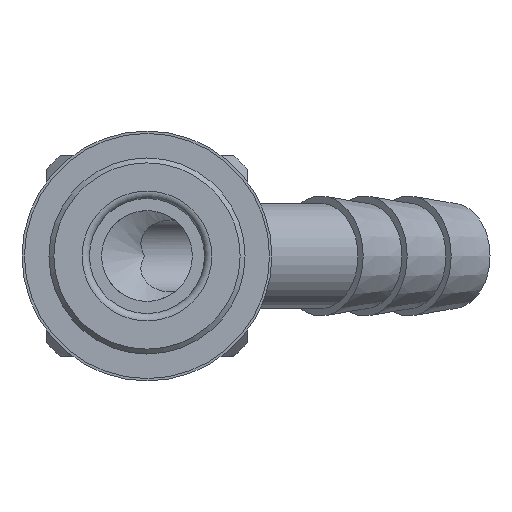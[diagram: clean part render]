
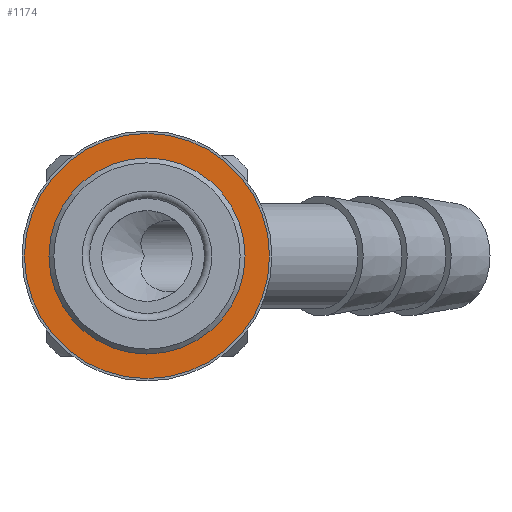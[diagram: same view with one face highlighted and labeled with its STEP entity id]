
A CAD part, left-side view. The second image highlights one B-rep face of the part: STEP entity #1174.
In plain terms, the highlighted planar face has unit normal (-1, 0, 0).
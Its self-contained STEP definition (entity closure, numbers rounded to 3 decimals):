
#160=PLANE('',#1305);
#263=CIRCLE('',#1304,6.8);
#264=CIRCLE('',#1306,8.5);
#352=ORIENTED_EDGE('',*,*,#668,.F.);
#353=ORIENTED_EDGE('',*,*,#667,.T.);
#667=EDGE_CURVE('',#822,#822,#263,.T.);
#668=EDGE_CURVE('',#823,#823,#264,.T.);
#822=VERTEX_POINT('',#1940);
#823=VERTEX_POINT('',#1943);
#928=EDGE_LOOP('',(#352));
#929=EDGE_LOOP('',(#353));
#1048=FACE_BOUND('',#928,.T.);
#1049=FACE_BOUND('',#929,.T.);
#1174=ADVANCED_FACE('',(#1048,#1049),#160,.F.);
#1304=AXIS2_PLACEMENT_3D('',#1939,#1514,#1515);
#1305=AXIS2_PLACEMENT_3D('',#1941,#1516,#1517);
#1306=AXIS2_PLACEMENT_3D('',#1942,#1518,#1519);
#1514=DIRECTION('',(1.,0.,0.));
#1515=DIRECTION('',(0.,0.,-1.));
#1516=DIRECTION('',(1.,0.,0.));
#1517=DIRECTION('',(0.,0.,-1.));
#1518=DIRECTION('',(1.,0.,0.));
#1519=DIRECTION('',(0.,0.,-1.));
#1939=CARTESIAN_POINT('',(0.,0.,0.));
#1940=CARTESIAN_POINT('',(0.,0.,-6.8));
#1941=CARTESIAN_POINT('',(0.,6.8,0.));
#1942=CARTESIAN_POINT('',(0.,0.,0.));
#1943=CARTESIAN_POINT('',(0.,0.,-8.5));
